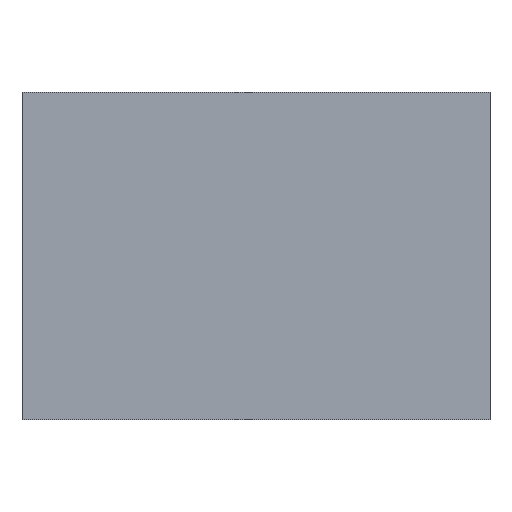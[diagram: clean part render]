
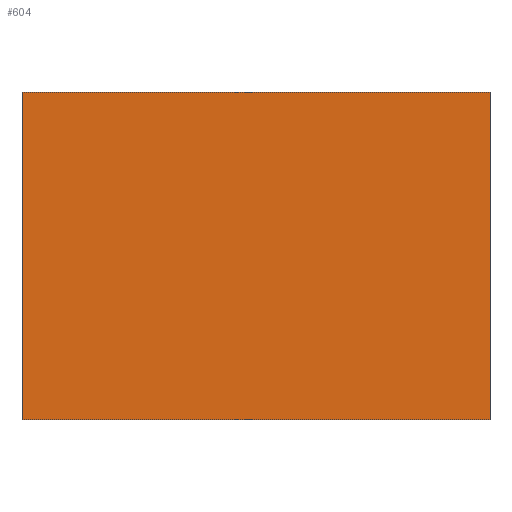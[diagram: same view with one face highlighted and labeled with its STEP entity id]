
A CAD part, top view. The second image highlights one B-rep face of the part: STEP entity #604.
In plain terms, the highlighted planar face has unit normal (0, 0, 1).
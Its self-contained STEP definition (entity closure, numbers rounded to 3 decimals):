
#80=PLANE('',#691);
#114=FACE_OUTER_BOUND('',#161,.T.);
#161=EDGE_LOOP('',(#479,#480,#481,#482));
#203=LINE('',#977,#251);
#204=LINE('',#979,#252);
#205=LINE('',#981,#253);
#206=LINE('',#982,#254);
#251=VECTOR('',#810,10.);
#252=VECTOR('',#811,10.);
#253=VECTOR('',#812,10.);
#254=VECTOR('',#813,10.);
#335=VERTEX_POINT('',#975);
#336=VERTEX_POINT('',#976);
#337=VERTEX_POINT('',#978);
#338=VERTEX_POINT('',#980);
#389=EDGE_CURVE('',#335,#336,#203,.T.);
#390=EDGE_CURVE('',#336,#337,#204,.T.);
#391=EDGE_CURVE('',#337,#338,#205,.T.);
#392=EDGE_CURVE('',#338,#335,#206,.T.);
#479=ORIENTED_EDGE('',*,*,#389,.T.);
#480=ORIENTED_EDGE('',*,*,#390,.T.);
#481=ORIENTED_EDGE('',*,*,#391,.T.);
#482=ORIENTED_EDGE('',*,*,#392,.T.);
#604=ADVANCED_FACE('',(#114),#80,.T.);
#691=AXIS2_PLACEMENT_3D('',#974,#808,#809);
#808=DIRECTION('center_axis',(0.,0.,1.));
#809=DIRECTION('ref_axis',(1.,0.,0.));
#810=DIRECTION('',(0.,1.,0.));
#811=DIRECTION('',(-1.,0.,0.));
#812=DIRECTION('',(0.,-1.,0.));
#813=DIRECTION('',(1.,0.,0.));
#974=CARTESIAN_POINT('Origin',(0.,0.,140.));
#975=CARTESIAN_POINT('',(250.,-175.,140.));
#976=CARTESIAN_POINT('',(250.,175.,140.));
#977=CARTESIAN_POINT('',(250.,-175.,140.));
#978=CARTESIAN_POINT('',(-250.,175.,140.));
#979=CARTESIAN_POINT('',(250.,175.,140.));
#980=CARTESIAN_POINT('',(-250.,-175.,140.));
#981=CARTESIAN_POINT('',(-250.,175.,140.));
#982=CARTESIAN_POINT('',(-250.,-175.,140.));
